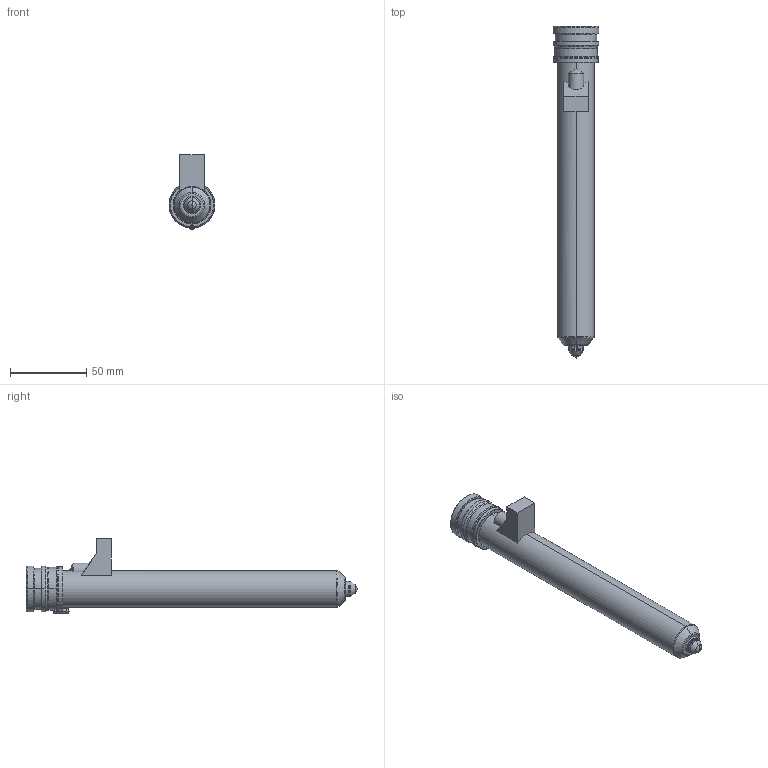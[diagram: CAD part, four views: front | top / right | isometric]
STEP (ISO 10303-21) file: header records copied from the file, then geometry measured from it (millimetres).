
FILE_DESCRIPTION((''),'2;1');
FILE_NAME('MPN-10-29-VX10-196-M','2026-02-05T12:58:01',('UPTIO'),('Thermoplay S.p.A.'),'CREO PARAMETRIC BY PTC INC, 2023494','CREO PARAMETRIC BY PTC INC, 2023494','');
FILE_SCHEMA(('CONFIG_CONTROL_DESIGN','SHAPE_APPEARANCE_LAYERS_GROUPS'));
Length unit declared in the file: millimetre
Products named in the file (1): MPN-10-29-VX10-196-M
Bounding box: 30 x 217.5 x 49 mm (x, y, z)
Volume: 66953 mm3; surface area: 68981.8 mm2
Topology: 3 solids, 5 shells, 547 faces, 1387 edges, 846 vertices
Faces by surface type: cylinder 179, plane 147, torus 71, bspline 70, cone 68, sphere 8, extrusion 4
Entity records: 28634 total; most frequent: CARTESIAN_POINT 12669, ORIENTED_EDGE 2760, DIRECTION 2638, EDGE_CURVE 1380, AXIS2_PLACEMENT_3D 1050, VERTEX_POINT 846, EDGE_LOOP 576, CIRCLE 576
